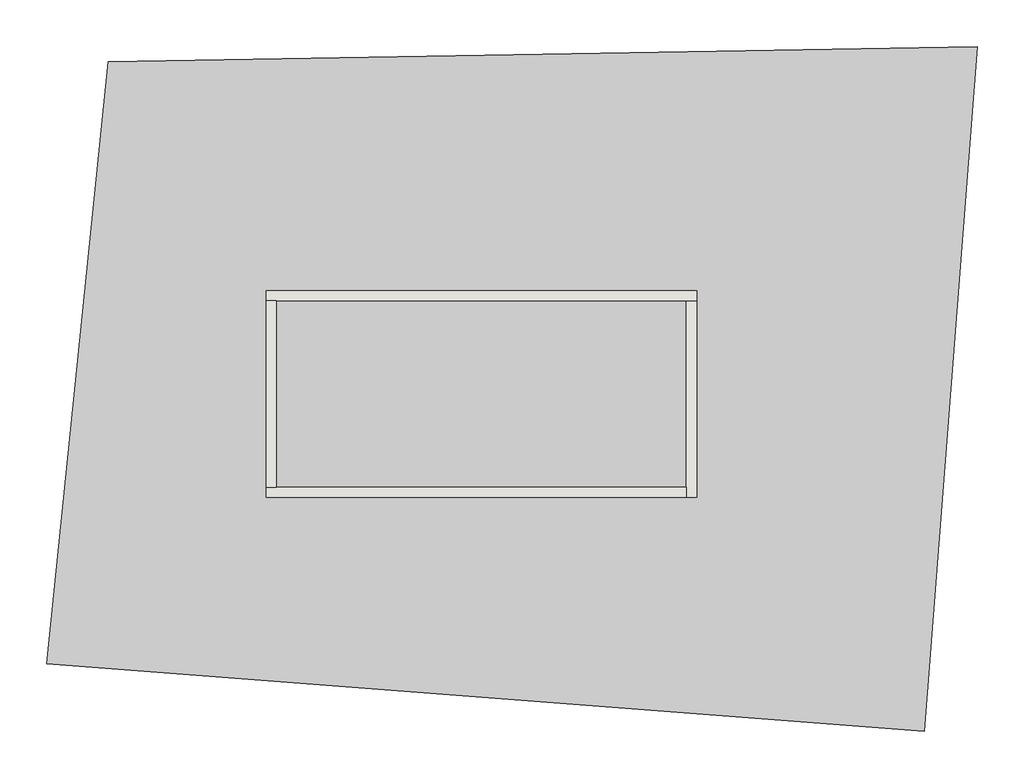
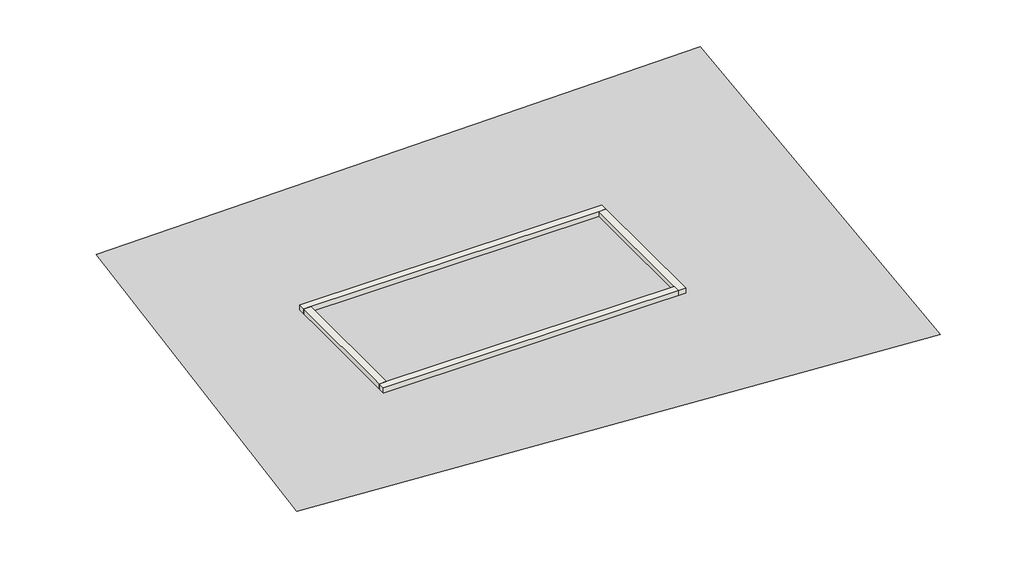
# One storey: 4 footings, 4 walls, 1 proxy.
"""IFC4 building model written with IfcOpenShell, lengths in millimetres."""

from ifc_helpers import new_model, si_unit, frame, origin, place, context, project, spatial, polyline, outline, extrude, faceted_brep, triangles, element, save

model = new_model("IFC4")

# Units and contexts
model_context = context("Model", 3, world=origin())
ifc_project = project(units=[si_unit("LENGTHUNIT", "METRE", prefix="MILLI")], contexts=[model_context])

# Site, building, storey
site = spatial("IfcSite", under=ifc_project)
building = spatial("IfcBuilding", under=site)
storey = spatial("IfcBuildingStorey", under=building, Name="01 soubassement", Elevation=-1000.0)

# Proxy
placement = place(None, origin())
element("IfcBuildingElementProxy", 1, Name="Building Element Proxy", at=placement, inside=storey, context=model_context, shape_type="Tessellation", body=[
    triangles([(-12675.7065216, -3373.2179398, -150.0000011), (-11465.1699463, 8457.0308853, -150.0000011), (5619.9110367, 8759.6653198, -150.0000011), (4574.4469437, -4693.8039024, -150.0000011)], [[2, 1, 4], [4, 3, 2]], closed=False),
])

# Footings
element("IfcFooting", 2, ObjectType="Soubassement 15 cm - 15 cm ep 20 cm", at=placement, inside=storey, context=model_context, shape_type="Brep", body=[
    faceted_brep([(250.0, 250.0, -1000.0), (-250.0, 250.0, -1000.0), (-8010.0, 250.0, -1000.0), (-8510.0, 250.0, -1000.0), (-8510.0, -250.0, -1000.0), (250.0, -250.0, -1000.0), (250.0, -250.0, -1200.0), (-8510.0, -250.0, -1200.0), (250.0, 250.0, -1200.0), (-8510.0, 250.0, -1200.0), (-8010.0, 250.0, -1200.0), (-250.0, 250.0, -1200.0)], [[[0, 1, 2, 3, 4, 5]], [[6, 5, 4, 7]], [[8, 6, 7, 9, 10, 11]], [[0, 8, 11, 10, 9, 3, 2, 1]], [[0, 5, 6, 8]], [[4, 3, 9, 7]]]),
])
element("IfcFooting", 3, ObjectType="Soubassement 15 cm - 15 cm ep 20 cm", at=placement, inside=storey, context=model_context, shape_type="Brep", body=[
    faceted_brep([(250.0, 4110.0, -1000.0), (-250.0, 4110.0, -1000.0), (-250.0, 3610.0, -1000.0), (-250.0, 250.0, -1000.0), (250.0, 250.0, -1000.0), (250.0, 4110.0, -1200.0), (250.0, 250.0, -1200.0), (-250.0, 4110.0, -1200.0), (-250.0, 250.0, -1200.0), (-250.0, 3610.0, -1200.0)], [[[0, 1, 2, 3, 4]], [[5, 0, 4, 6]], [[7, 5, 6, 8, 9]], [[1, 7, 9, 8, 3, 2]], [[4, 3, 8, 6]], [[1, 0, 5, 7]]]),
])
element("IfcFooting", 4, ObjectType="Soubassement 15 cm - 15 cm ep 20 cm", at=placement, inside=storey, context=model_context, shape_type="Brep", body=[
    faceted_brep([(-8510.0, 4110.0, -1000.0), (-8510.0, 3610.0, -1000.0), (-8010.0, 3610.0, -1000.0), (-250.0, 3610.0, -1000.0), (-250.0, 4110.0, -1000.0), (-8510.0, 4110.0, -1200.0), (-250.0, 4110.0, -1200.0), (-8510.0, 3610.0, -1200.0), (-250.0, 3610.0, -1200.0), (-8010.0, 3610.0, -1200.0)], [[[0, 1, 2, 3, 4]], [[5, 0, 4, 6]], [[7, 5, 6, 8, 9]], [[1, 7, 9, 8, 3, 2]], [[4, 3, 8, 6]], [[1, 0, 5, 7]]]),
])
element("IfcFooting", 5, ObjectType="Soubassement 15 cm - 15 cm ep 20 cm", at=placement, inside=storey, context=model_context, shape_type="SweptSolid", body=[
    extrude(outline(polyline([(-8010.0, 250.0), (-8510.0, 250.0), (-8510.0, 3610.0), (-8010.0, 3610.0), (-8010.0, 250.0)])), frame((0.0, 0.0, -1200.0), z_axis=(0.0, 0.0, 1.0), x_axis=(1.0, 0.0, 0.0)), (0.0, 0.0, 1.0), 200.0),
])

# Walls
element("IfcWall", 6, ObjectType="Ext. Voile BA 20", at=placement, inside=storey, context=model_context, shape_type="Brep", body=[
    faceted_brep([(-8360.0, 3760.0, -1000.0), (-8160.0, 3760.0, -1000.0), (-100.0, 3760.0, -1000.0), (100.0, 3760.0, -1000.0), (100.0, 3760.0, 0.0), (-100.0, 3760.0, 0.0), (-8160.0, 3760.0, 0.0), (-8360.0, 3760.0, 0.0), (-8360.0, 3960.0, -1000.0), (-8360.0, 3960.0, 0.0), (100.0, 3960.0, 0.0), (100.0, 3960.0, -1000.0)], [[[0, 1, 2, 3, 4, 5, 6, 7]], [[8, 9, 10, 11]], [[3, 2, 1, 0, 8, 11]], [[7, 6, 5, 4, 10, 9]], [[4, 3, 11, 10]], [[0, 7, 9, 8]]]),
])
element("IfcWall", 7, ObjectType="Ext. Voile BA 20", at=placement, inside=storey, context=model_context, shape_type="Brep", body=[
    faceted_brep([(-100.0, 3760.0, -1000.0), (-100.0, 100.0, -1000.0), (-100.0, -100.0, -1000.0), (-100.0, -100.0, 0.0), (-100.0, 100.0, 0.0), (-100.0, 3760.0, 0.0), (100.0, 3760.0, -1000.0), (100.0, 3760.0, 0.0), (100.0, -100.0, 0.0), (100.0, -100.0, -1000.0)], [[[0, 1, 2, 3, 4, 5]], [[6, 7, 8, 9]], [[2, 1, 0, 6, 9]], [[5, 4, 3, 8, 7]], [[0, 5, 7, 6]], [[3, 2, 9, 8]]]),
])
element("IfcWall", 8, ObjectType="Ext. Voile BA 20", at=placement, inside=storey, context=model_context, shape_type="Brep", body=[
    faceted_brep([(-100.0, 100.0, -1000.0), (-8160.0, 100.0, -1000.0), (-8360.0, 100.0, -1000.0), (-8360.0, 100.0, 0.0), (-8160.0, 100.0, 0.0), (-100.0, 100.0, 0.0), (-100.0, -100.0, -1000.0), (-100.0, -100.0, 0.0), (-8360.0, -100.0, 0.0), (-8360.0, -100.0, -1000.0)], [[[0, 1, 2, 3, 4, 5]], [[6, 7, 8, 9]], [[2, 1, 0, 6, 9]], [[5, 4, 3, 8, 7]], [[0, 5, 7, 6]], [[3, 2, 9, 8]]]),
])
element("IfcWall", 9, ObjectType="Ext. Voile BA 20", at=placement, inside=storey, context=model_context, shape_type="SweptSolid", body=[
    extrude(outline(polyline([(-8160.0, 3760.0), (-8160.0, 100.0), (-8360.0, 100.0), (-8360.0, 3760.0), (-8160.0, 3760.0)])), frame((0.0, 0.0, -1000.0), z_axis=(0.0, 0.0, 1.0), x_axis=(1.0, 0.0, 0.0)), (0.0, 0.0, 1.0), 1000.0),
])

save(model, "model.ifc")
